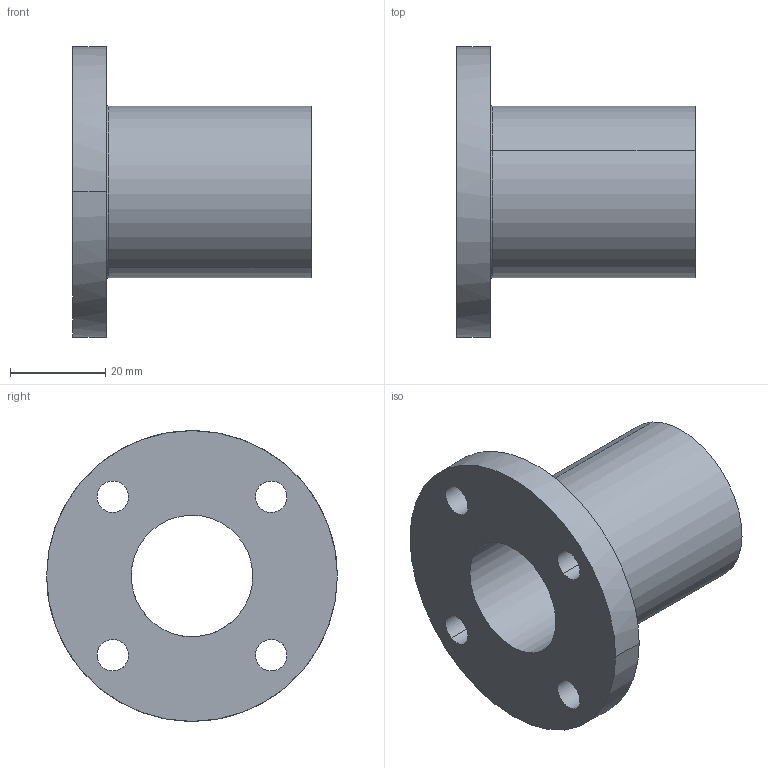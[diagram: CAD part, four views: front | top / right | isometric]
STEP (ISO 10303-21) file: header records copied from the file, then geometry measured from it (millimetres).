
FILE_DESCRIPTION(('CATIA V5 STEP Exchange'),'2;1');
FILE_NAME('C:\Users\aa\Documents\이댈\TM\TTM\TTM25.stp','2020-03-24T02:34:22+00:00',('none'),('none'),'CATIA Version 5 Release 20 SP 7 (IN-10)','CATIA V5 STEP AP203','none');
FILE_SCHEMA(('CONFIG_CONTROL_DESIGN'));
Length unit declared in the file: millimetre
Products named in the file (1): TTM25
Bounding box: 50 x 61 x 61 mm (x, y, z)
Volume: 37738.9 mm3; surface area: 15316.4 mm2
Topology: 1 solids, 1 shells, 19 faces, 46 edges, 30 vertices
Faces by surface type: cylinder 14, plane 3, torus 2
Entity records: 792 total; most frequent: CARTESIAN_POINT 304, ORIENTED_EDGE 92, DIRECTION 73, EDGE_CURVE 46, AXIS2_PLACEMENT_3D 41, EDGE_LOOP 30, VERTEX_POINT 30, CIRCLE 21
